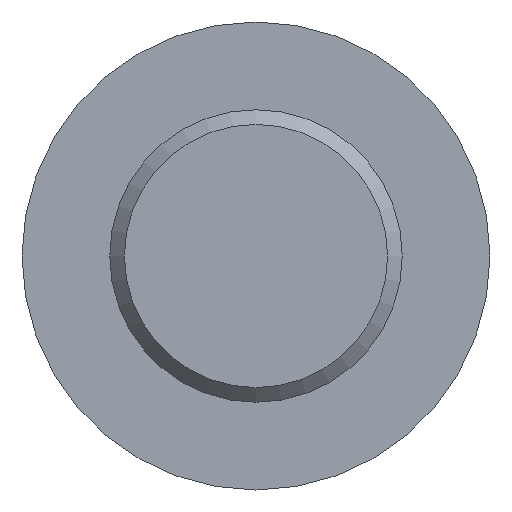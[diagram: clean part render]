
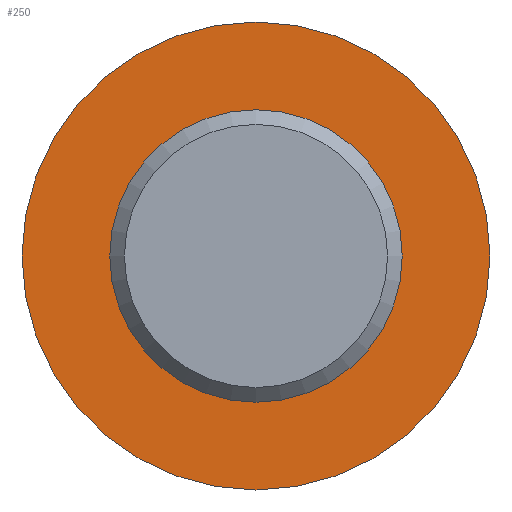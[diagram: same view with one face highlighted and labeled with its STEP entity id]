
A CAD part, front view. The second image highlights one B-rep face of the part: STEP entity #250.
In plain terms, the highlighted planar face has unit normal (0, -1, 0).
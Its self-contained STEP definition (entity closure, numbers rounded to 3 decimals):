
#17=FACE_BOUND('',#61,.T.);
#30=PLANE('',#303);
#43=FACE_OUTER_BOUND('',#60,.T.);
#60=EDGE_LOOP('',(#214,#215));
#61=EDGE_LOOP('',(#216,#217));
#100=CIRCLE('',#301,5.);
#101=CIRCLE('',#302,5.);
#102=CIRCLE('',#304,8.);
#103=CIRCLE('',#305,8.);
#126=VERTEX_POINT('',#456);
#127=VERTEX_POINT('',#457);
#128=VERTEX_POINT('',#462);
#129=VERTEX_POINT('',#463);
#157=EDGE_CURVE('',#126,#127,#100,.T.);
#158=EDGE_CURVE('',#127,#126,#101,.T.);
#160=EDGE_CURVE('',#128,#129,#102,.T.);
#161=EDGE_CURVE('',#129,#128,#103,.T.);
#214=ORIENTED_EDGE('',*,*,#160,.F.);
#215=ORIENTED_EDGE('',*,*,#161,.F.);
#216=ORIENTED_EDGE('',*,*,#157,.T.);
#217=ORIENTED_EDGE('',*,*,#158,.T.);
#250=ADVANCED_FACE('',(#43,#17),#30,.T.);
#301=AXIS2_PLACEMENT_3D('',#458,#375,#376);
#302=AXIS2_PLACEMENT_3D('',#459,#377,#378);
#303=AXIS2_PLACEMENT_3D('',#461,#380,#381);
#304=AXIS2_PLACEMENT_3D('',#464,#382,#383);
#305=AXIS2_PLACEMENT_3D('',#465,#384,#385);
#375=DIRECTION('center_axis',(0.,1.,0.));
#376=DIRECTION('ref_axis',(1.,0.,0.));
#377=DIRECTION('center_axis',(0.,1.,0.));
#378=DIRECTION('ref_axis',(1.,0.,0.));
#380=DIRECTION('center_axis',(0.,-1.,0.));
#381=DIRECTION('ref_axis',(0.,0.,-1.));
#382=DIRECTION('center_axis',(0.,1.,0.));
#383=DIRECTION('ref_axis',(1.,0.,0.));
#384=DIRECTION('center_axis',(0.,1.,0.));
#385=DIRECTION('ref_axis',(1.,0.,0.));
#456=CARTESIAN_POINT('',(0.,-289.,5.));
#457=CARTESIAN_POINT('',(0.,-289.,-5.));
#458=CARTESIAN_POINT('Origin',(0.,-289.,0.));
#459=CARTESIAN_POINT('Origin',(0.,-289.,0.));
#461=CARTESIAN_POINT('Origin',(0.,-289.,8.));
#462=CARTESIAN_POINT('',(0.,-289.,8.));
#463=CARTESIAN_POINT('',(0.,-289.,-8.));
#464=CARTESIAN_POINT('Origin',(0.,-289.,0.));
#465=CARTESIAN_POINT('Origin',(0.,-289.,0.));
